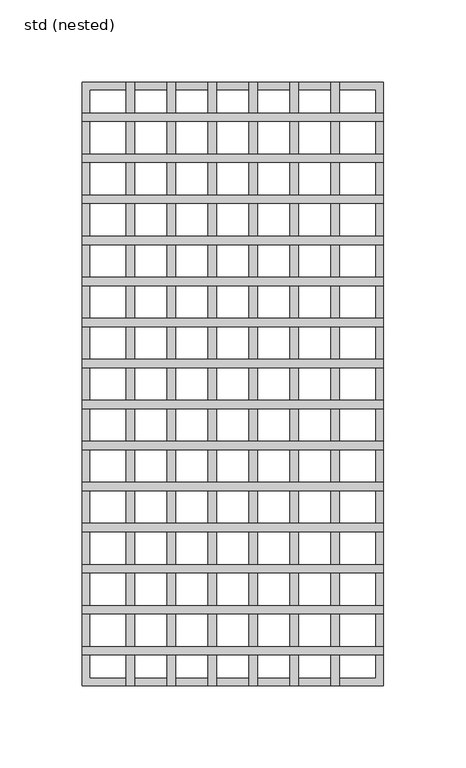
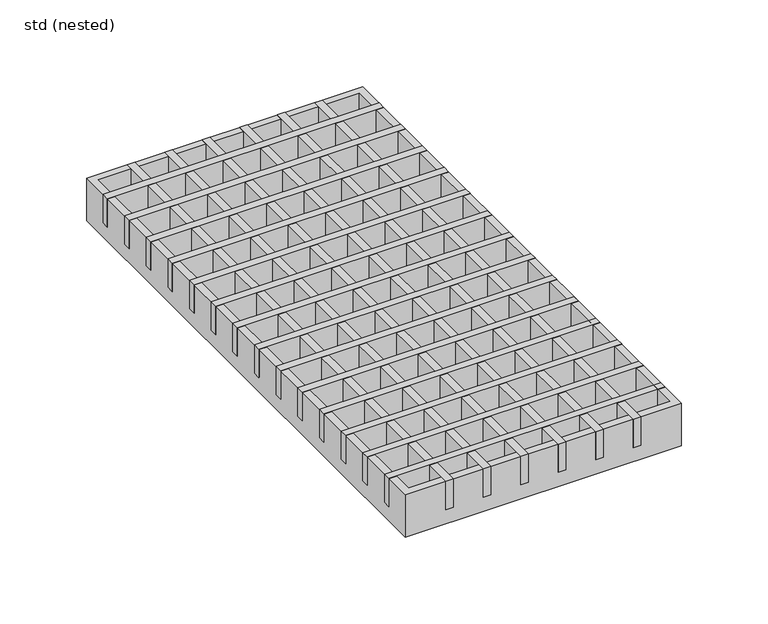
"""IFC4 building model written with IfcOpenShell, lengths in millimetres: sanitary terminal geometry, ZZZ_do not use_PF_ST_UN_grating for high capacity gully_ACO : std (nested)."""

from ifc_helpers import new_model, si_unit, frame, origin, place, context, project, spatial, polyline, outline, extrude, source, transform, mapped, element, save


def std_nested_04520186(model_context):
    return source(origin(), model_context, "Body", "SweptSolid", [
        extrude(outline(polyline([(92.0, -165.0), (-92.0, -165.0), (-92.0, -160.0), (92.0, -160.0), (92.0, -165.0)])), frame((0.0, 0.0, -20.0), z_axis=(0.0, 0.0, 1.0), x_axis=(1.0, 0.0, 0.0)), (0.0, 0.0, 1.0), 20.0),
        extrude(outline(polyline([(92.0, -140.0), (-92.0, -140.0), (-92.0, -135.0), (92.0, -135.0), (92.0, -140.0)])), frame((0.0, 0.0, -20.0), z_axis=(0.0, 0.0, 1.0), x_axis=(1.0, 0.0, 0.0)), (0.0, 0.0, 1.0), 20.0),
        extrude(outline(polyline([(92.0, -115.0), (-92.0, -115.0), (-92.0, -110.0), (92.0, -110.0), (92.0, -115.0)])), frame((0.0, 0.0, -20.0), z_axis=(0.0, 0.0, 1.0), x_axis=(1.0, 0.0, 0.0)), (0.0, 0.0, 1.0), 20.0),
        extrude(outline(polyline([(92.0, -90.0), (-92.0, -90.0), (-92.0, -85.0), (92.0, -85.0), (92.0, -90.0)])), frame((0.0, 0.0, -20.0), z_axis=(0.0, 0.0, 1.0), x_axis=(1.0, 0.0, 0.0)), (0.0, 0.0, 1.0), 20.0),
        extrude(outline(polyline([(92.0, -65.0), (-92.0, -65.0), (-92.0, -60.0), (92.0, -60.0), (92.0, -65.0)])), frame((0.0, 0.0, -20.0), z_axis=(0.0, 0.0, 1.0), x_axis=(1.0, 0.0, 0.0)), (0.0, 0.0, 1.0), 20.0),
        extrude(outline(polyline([(92.0, -40.0), (-92.0, -40.0), (-92.0, -35.0), (92.0, -35.0), (92.0, -40.0)])), frame((0.0, 0.0, -20.0), z_axis=(0.0, 0.0, 1.0), x_axis=(1.0, 0.0, 0.0)), (0.0, 0.0, 1.0), 20.0),
        extrude(outline(polyline([(92.0, 165.0), (92.0, 160.0), (-92.0, 160.0), (-92.0, 165.0), (92.0, 165.0)])), frame((0.0, 0.0, -20.0), z_axis=(0.0, 0.0, 1.0), x_axis=(1.0, 0.0, 0.0)), (0.0, 0.0, 1.0), 20.0),
        extrude(outline(polyline([(92.0, 140.0), (92.0, 135.0), (-92.0, 135.0), (-92.0, 140.0), (92.0, 140.0)])), frame((0.0, 0.0, -20.0), z_axis=(0.0, 0.0, 1.0), x_axis=(1.0, 0.0, 0.0)), (0.0, 0.0, 1.0), 20.0),
        extrude(outline(polyline([(92.0, 115.0), (92.0, 110.0), (-92.0, 110.0), (-92.0, 115.0), (92.0, 115.0)])), frame((0.0, 0.0, -20.0), z_axis=(0.0, 0.0, 1.0), x_axis=(1.0, 0.0, 0.0)), (0.0, 0.0, 1.0), 20.0),
        extrude(outline(polyline([(92.0, 90.0), (92.0, 85.0), (-92.0, 85.0), (-92.0, 90.0), (92.0, 90.0)])), frame((0.0, 0.0, -20.0), z_axis=(0.0, 0.0, 1.0), x_axis=(1.0, 0.0, 0.0)), (0.0, 0.0, 1.0), 20.0),
        extrude(outline(polyline([(92.0, 65.0), (92.0, 60.0), (-92.0, 60.0), (-92.0, 65.0), (92.0, 65.0)])), frame((0.0, 0.0, -20.0), z_axis=(0.0, 0.0, 1.0), x_axis=(1.0, 0.0, 0.0)), (0.0, 0.0, 1.0), 20.0),
        extrude(outline(polyline([(92.0, 40.0), (92.0, 35.0), (-92.0, 35.0), (-92.0, 40.0), (92.0, 40.0)])), frame((0.0, 0.0, -20.0), z_axis=(0.0, 0.0, 1.0), x_axis=(1.0, 0.0, 0.0)), (0.0, 0.0, 1.0), 20.0),
        extrude(outline(polyline([(92.0, 15.0), (92.0, 10.0), (-92.0, 10.0), (-92.0, 15.0), (92.0, 15.0)])), frame((0.0, 0.0, -20.0), z_axis=(0.0, 0.0, 1.0), x_axis=(1.0, 0.0, 0.0)), (0.0, 0.0, 1.0), 20.0),
        extrude(outline(polyline([(92.0, -15.0), (-92.0, -15.0), (-92.0, -10.0), (92.0, -10.0), (92.0, -15.0)])), frame((0.0, 0.0, -20.0), z_axis=(0.0, 0.0, 1.0), x_axis=(1.0, 0.0, 0.0)), (0.0, 0.0, 1.0), 20.0),
        extrude(outline(polyline([(-65.0, 184.0), (-60.0, 184.0), (-60.0, -184.0), (-65.0, -184.0), (-65.0, 184.0)])), frame((0.0, 0.0, -20.0), z_axis=(0.0, 0.0, 1.0), x_axis=(1.0, 0.0, 0.0)), (0.0, 0.0, 1.0), 20.0),
        extrude(outline(polyline([(-40.0, 184.0), (-35.0, 184.0), (-35.0, -184.0), (-40.0, -184.0), (-40.0, 184.0)])), frame((0.0, 0.0, -20.0), z_axis=(0.0, 0.0, 1.0), x_axis=(1.0, 0.0, 0.0)), (0.0, 0.0, 1.0), 20.0),
        extrude(outline(polyline([(65.0, 184.0), (65.0, -184.0), (60.0, -184.0), (60.0, 184.0), (65.0, 184.0)])), frame((0.0, 0.0, -20.0), z_axis=(0.0, 0.0, 1.0), x_axis=(1.0, 0.0, 0.0)), (0.0, 0.0, 1.0), 20.0),
        extrude(outline(polyline([(40.0, 184.0), (40.0, -184.0), (35.0, -184.0), (35.0, 184.0), (40.0, 184.0)])), frame((0.0, 0.0, -20.0), z_axis=(0.0, 0.0, 1.0), x_axis=(1.0, 0.0, 0.0)), (0.0, 0.0, 1.0), 20.0),
        extrude(outline(polyline([(-15.0, 184.0), (-10.0, 184.0), (-10.0, -184.0), (-15.0, -184.0), (-15.0, 184.0)])), frame((0.0, 0.0, -20.0), z_axis=(0.0, 0.0, 1.0), x_axis=(1.0, 0.0, 0.0)), (0.0, 0.0, 1.0), 20.0),
        extrude(outline(polyline([(15.0, 184.0), (15.0, -184.0), (10.0, -184.0), (10.0, 184.0), (15.0, 184.0)])), frame((0.0, 0.0, -20.0), z_axis=(0.0, 0.0, 1.0), x_axis=(1.0, 0.0, 0.0)), (0.0, 0.0, 1.0), 20.0),
        extrude(outline(polyline([(92.0, 184.0), (92.0, -184.0), (-92.0, -184.0), (-92.0, 184.0), (92.0, 184.0)]), holes=[polyline([(87.0, 179.0), (-87.0, 179.0), (-87.0, -179.0), (87.0, -179.0), (87.0, 179.0)])]), frame((0.0, 0.0, -30.0), z_axis=(0.0, 0.0, 1.0), x_axis=(1.0, 0.0, 0.0)), (0.0, 0.0, 1.0), 30.0),
    ])


if __name__ == "__main__":
    model = new_model("IFC4")
    model_context = context("Model", 3, world=origin())
    ifc_project = project(units=[si_unit("LENGTHUNIT", "METRE", prefix="MILLI")], contexts=[model_context])
    site = spatial("IfcSite", under=ifc_project)
    building = spatial("IfcBuilding", under=site)
    placement = place(None, origin())
    std_nested_shape = std_nested_04520186(model_context)
    element("IfcSanitaryTerminal", 1, ObjectType="ZZZ_do not use_PF_ST_UN_grating for high capacity gully_ACO : std (nested)", at=placement, inside=building, context=model_context, shape_type="MappedRepresentation", body=[
        mapped(std_nested_shape, transform((0.0, 0.0, 0.0), x_axis=(1.0, 0.0, 0.0), y_axis=(0.0, 1.0, 0.0), z_axis=(0.0, 0.0, 1.0))),
    ])
    save(model, "model.ifc")
